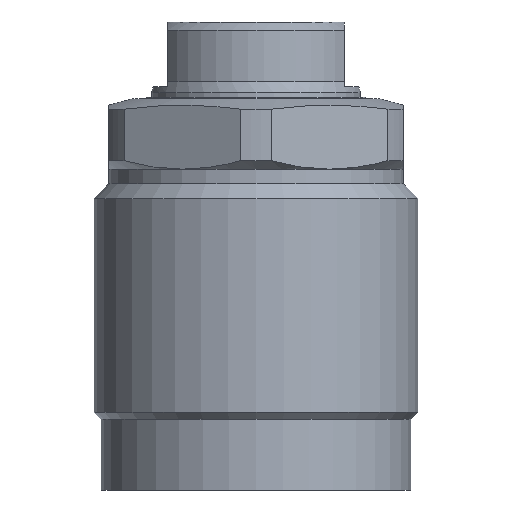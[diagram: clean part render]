
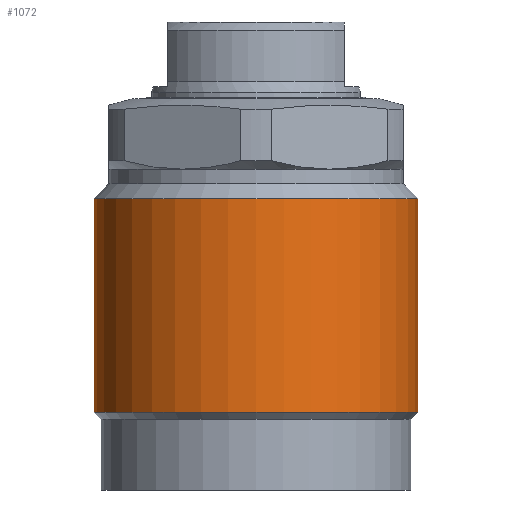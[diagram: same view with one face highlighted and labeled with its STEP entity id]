
A CAD part, front view. The second image highlights one B-rep face of the part: STEP entity #1072.
In plain terms, the highlighted cylindrical face has radius 27.5 mm (diameter 55 mm), a partial arc.
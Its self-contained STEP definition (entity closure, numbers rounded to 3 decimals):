
#1009=CARTESIAN_POINT('',(-27.5,0.0,-53.3));
#1010=VERTEX_POINT('',#1009);
#1018=CARTESIAN_POINT('',(27.5,0.0,-53.3));
#1019=VERTEX_POINT('',#1018);
#1026=CARTESIAN_POINT('',(-0.0,0.0,-53.3));
#1027=DIRECTION('',(0.0,0.0,1.0));
#1028=DIRECTION('',(1.0,0.0,0.0));
#1029=AXIS2_PLACEMENT_3D('',#1026,#1027,#1028);
#1030=CIRCLE('',#1029,27.5);
#1031=EDGE_CURVE('no 2061',#1010,#1019,#1030,.T.);
#1041=CARTESIAN_POINT('',(-27.5,0.0,-17.));
#1042=VERTEX_POINT('',#1041);
#1043=CARTESIAN_POINT('',(-27.5,0.0,-53.3));
#1044=DIRECTION('',(0.,-0.0,1.0));
#1045=VECTOR('',#1044,1.0);
#1046=LINE('',#1043,#1045);
#1047=EDGE_CURVE('no 2071',#1010,#1042,#1046,.T.);
#1048=ORIENTED_EDGE('',*,*,#1047,.F.);
#1049=ORIENTED_EDGE('',*,*,#1031,.T.);
#1050=CARTESIAN_POINT('',(27.5,0.0,-17.));
#1051=VERTEX_POINT('',#1050);
#1052=CARTESIAN_POINT('',(27.5,0.0,-53.3));
#1053=DIRECTION('',(0.,0.0,1.0));
#1054=VECTOR('',#1053,1.0);
#1055=LINE('',#1052,#1054);
#1056=EDGE_CURVE('no 2079',#1019,#1051,#1055,.T.);
#1057=ORIENTED_EDGE('',*,*,#1056,.T.);
#1058=CARTESIAN_POINT('',(-0.0,0.0,-17.));
#1059=DIRECTION('',(0.0,0.0,1.0));
#1060=DIRECTION('',(1.0,0.0,0.0));
#1061=AXIS2_PLACEMENT_3D('',#1058,#1059,#1060);
#1062=CIRCLE('',#1061,27.5);
#1063=EDGE_CURVE('no 2083',#1042,#1051,#1062,.T.);
#1064=ORIENTED_EDGE('',*,*,#1063,.F.);
#1065=EDGE_LOOP('',(#1048,#1049,#1057,#1064));
#1066=FACE_OUTER_BOUND('',#1065,.T.);
#1067=CARTESIAN_POINT('',(-0.0,0.0,6.379));
#1068=DIRECTION('',(0.0,0.0,1.0));
#1069=DIRECTION('',(0.0,1.0,0.0));
#1070=AXIS2_PLACEMENT_3D('',#1067,#1068,#1069);
#1071=CYLINDRICAL_SURFACE('',#1070,27.5);
#1072=ADVANCED_FACE('no 2064',(#1066),#1071,.T.);
